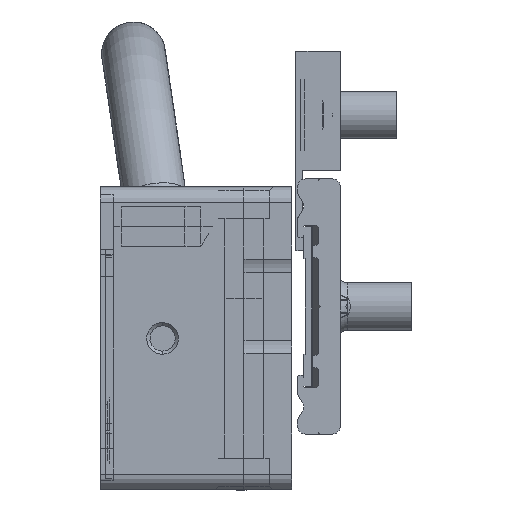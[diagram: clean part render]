
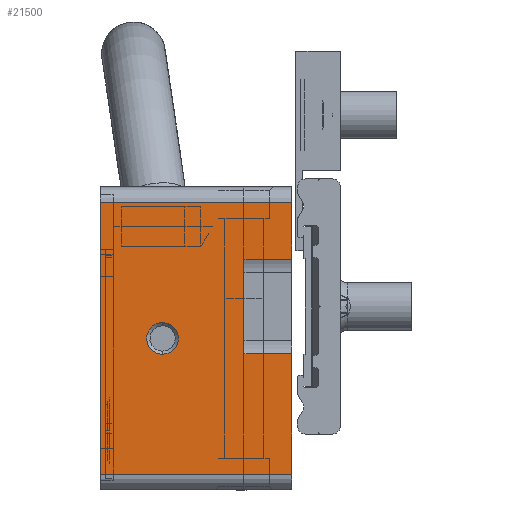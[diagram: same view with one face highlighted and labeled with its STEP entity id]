
A CAD part, left-side view. The second image highlights one B-rep face of the part: STEP entity #21500.
In plain terms, the highlighted planar face has unit normal (-1, 0, 0).
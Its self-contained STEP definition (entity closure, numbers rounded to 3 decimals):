
#2790=CARTESIAN_POINT('',(-46.,17.8,0.));
#2800=VERTEX_POINT('',#2790);
#2830=CARTESIAN_POINT('',(-46.,17.8,-6.));
#2840=DIRECTION('',(0.,0.,-1.));
#2850=VECTOR('',#2840,1.);
#2860=LINE('',#2830,#2850);
#2870=CARTESIAN_POINT('',(-46.,17.8,-12.));
#2880=VERTEX_POINT('',#2870);
#2890=EDGE_CURVE('',#2800,#2880,#2860,.T.);
#8680=CARTESIAN_POINT('',(-46.,14.272,-3.));
#8690=VERTEX_POINT('',#8680);
#8720=CARTESIAN_POINT('',(-46.,14.272,-3.006));
#8730=DIRECTION('',(0.,0.,1.));
#8740=VECTOR('',#8730,1.);
#8750=LINE('',#8720,#8740);
#8760=CARTESIAN_POINT('',(-46.,14.272,0.));
#8770=VERTEX_POINT('',#8760);
#8780=EDGE_CURVE('',#8690,#8770,#8750,.T.);
#12820=CARTESIAN_POINT('',(-46.,8.328,-3.));
#12830=VERTEX_POINT('',#12820);
#12860=CARTESIAN_POINT('',(-46.,0.,-3.));
#12870=DIRECTION('',(0.,1.,0.));
#12880=VECTOR('',#12870,1.);
#12890=LINE('',#12860,#12880);
#12900=EDGE_CURVE('',#12830,#8690,#12890,.T.);
#14580=CARTESIAN_POINT('',(-46.,0.8,0.));
#14590=VERTEX_POINT('',#14580);
#14620=CARTESIAN_POINT('',(-46.,0.,0.));
#14630=DIRECTION('',(0.,1.,0.));
#14640=VECTOR('',#14630,1.);
#14650=LINE('',#14620,#14640);
#14660=CARTESIAN_POINT('',(-46.,8.328,0.));
#14670=VERTEX_POINT('',#14660);
#14680=EDGE_CURVE('',#14590,#14670,#14650,.T.);
#14860=EDGE_CURVE('',#8770,#2800,#14650,.T.);
#18380=CARTESIAN_POINT('',(-46.,0.,-12.));
#18390=DIRECTION('',(0.,1.,0.));
#18400=VECTOR('',#18390,1.);
#18410=LINE('',#18380,#18400);
#18420=CARTESIAN_POINT('',(-46.,0.8,-12.));
#18430=VERTEX_POINT('',#18420);
#18440=EDGE_CURVE('',#18430,#2880,#18410,.T.);
#20380=CARTESIAN_POINT('',(-46.,8.328,-3.006));
#20390=DIRECTION('',(0.,0.,1.));
#20400=VECTOR('',#20390,1.);
#20410=LINE('',#20380,#20400);
#20420=EDGE_CURVE('',#12830,#14670,#20410,.T.);
#21110=CARTESIAN_POINT('',(-46.,17.8,-6.));
#21120=DIRECTION('',(-1.,0.,0.));
#21130=DIRECTION('',(0.,-1.,0.));
#21140=AXIS2_PLACEMENT_3D('',#21110,#21120,#21130);
#21150=PLANE('',#21140);
#21160=CARTESIAN_POINT('',(-46.,9.3,-8.1));
#21170=DIRECTION('',(1.,0.,0.));
#21180=DIRECTION('',(0.,0.,-1.));
#21190=AXIS2_PLACEMENT_3D('',#21160,#21170,#21180);
#21200=CIRCLE('',#21190,1.);
#21210=CARTESIAN_POINT('',(-46.,10.3,-8.1));
#21220=VERTEX_POINT('',#21210);
#21230=CARTESIAN_POINT('',(-46.,8.3,-8.1));
#21240=VERTEX_POINT('',#21230);
#21250=EDGE_CURVE('',#21220,#21240,#21200,.T.);
#21260=ORIENTED_EDGE('',*,*,#21250,.T.);
#21270=CARTESIAN_POINT('',(-46.,8.307,-8.214));
#21280=VERTEX_POINT('',#21270);
#21290=EDGE_CURVE('',#21280,#21220,#21200,.T.);
#21300=ORIENTED_EDGE('',*,*,#21290,.T.);
#21310=EDGE_CURVE('',#21240,#21280,#21200,.T.);
#21320=ORIENTED_EDGE('',*,*,#21310,.T.);
#21330=EDGE_LOOP('',(#21320,#21300,#21260));
#21340=FACE_BOUND('',#21330,.T.);
#21350=ORIENTED_EDGE('',*,*,#14860,.T.);
#21360=ORIENTED_EDGE('',*,*,#8780,.T.);
#21370=ORIENTED_EDGE('',*,*,#12900,.T.);
#21380=ORIENTED_EDGE('',*,*,#20420,.F.);
#21390=ORIENTED_EDGE('',*,*,#14680,.T.);
#21400=CARTESIAN_POINT('',(-46.,0.8,0.));
#21410=DIRECTION('',(0.,0.,-1.));
#21420=VECTOR('',#21410,1.);
#21430=LINE('',#21400,#21420);
#21440=EDGE_CURVE('',#14590,#18430,#21430,.T.);
#21450=ORIENTED_EDGE('',*,*,#21440,.F.);
#21460=ORIENTED_EDGE('',*,*,#18440,.F.);
#21470=ORIENTED_EDGE('',*,*,#2890,.T.);
#21480=EDGE_LOOP('',(#21470,#21460,#21450,#21390,#21380,#21370,#21360,
#21350));
#21490=FACE_OUTER_BOUND('',#21480,.T.);
#21500=ADVANCED_FACE('',(#21340,#21490),#21150,.T.);
